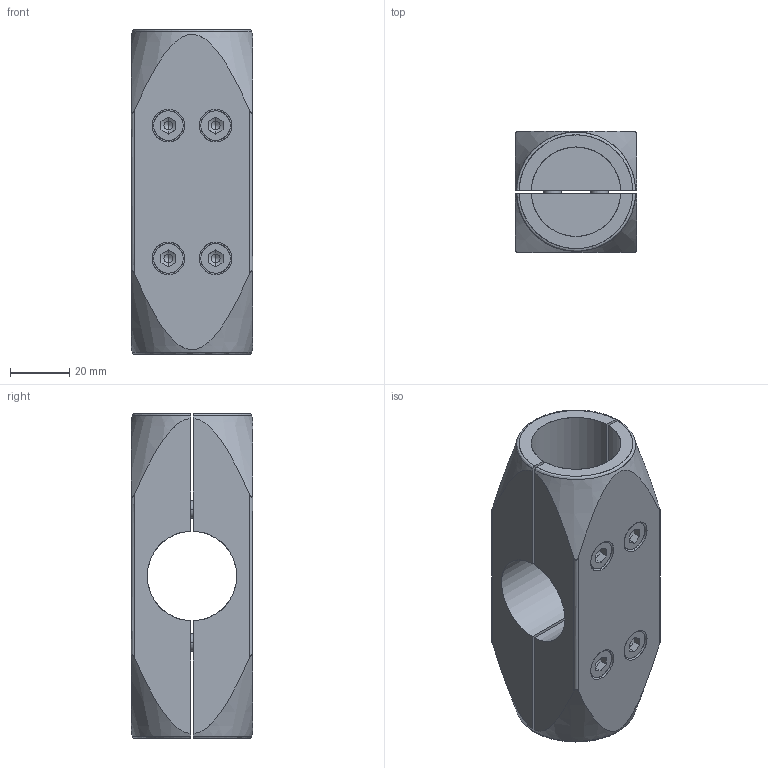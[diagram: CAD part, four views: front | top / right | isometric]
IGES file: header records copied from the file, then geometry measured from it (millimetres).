
Start section: SolidWorks IGES file using analytic representation for surfaces
Global section: file name: C:\Users\Gerard\OneDrive - Tecnodin, S.L\Escritorio\30 mm Verbinder im step. Format\31000410014.IGS; native system: SolidWorks 2016; preprocessor: SolidWorks 2016; author: Gerard; date: 240902.114357; units: millimetre
Bounding box: 41 x 41 x 110 mm (x, y, z)
Surface area: 40611.2 mm2 (no closed solid volume)
Topology: 0 solids, 0 shells, 224 faces, 3928 edges, 3908 vertices
Faces by surface type: revolution 142, bspline 82
